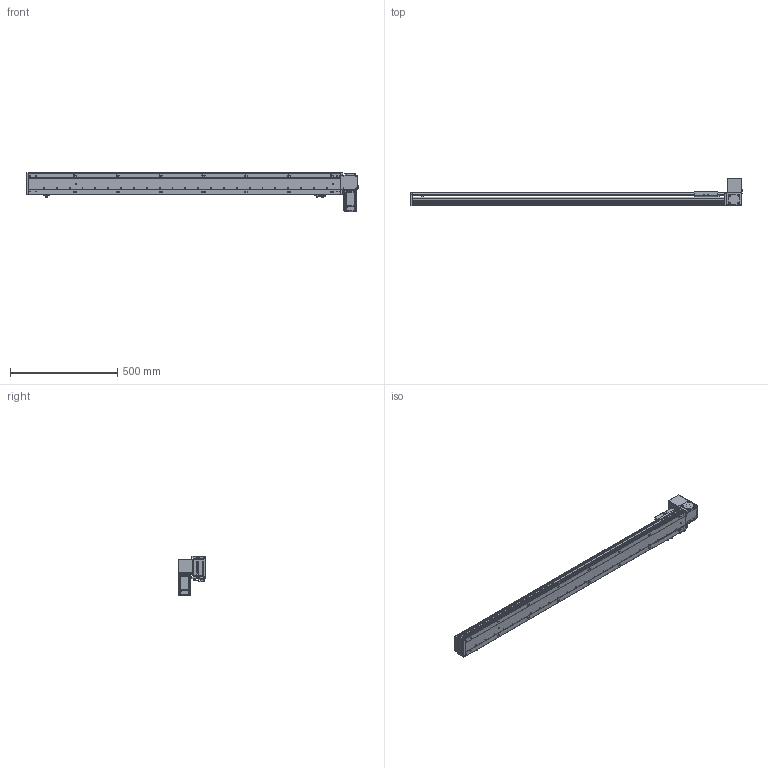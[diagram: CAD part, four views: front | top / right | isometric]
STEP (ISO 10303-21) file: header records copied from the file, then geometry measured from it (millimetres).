
FILE_DESCRIPTION (( 'STEP AP203' ), '1' );
FILE_NAME ('RY100-T-300-UL.SLDASM_1250.step', '2024-04-25T08:40:21', ( '盈信电脑' ), ( '东莞市道滘镇水果街19号' ), 'SwSTEP 2.0', 'SolidWorks 2016', '' );
FILE_SCHEMA (( 'CONFIG_CONTROL_DESIGN' ));
Length unit declared in the file: millimetre
Products named in the file (15): RY100-T-300-RK倰第奻裔_1250; RY80-T肮祭謫奻殏俋欶; RY100-T翋肮祭謫裔啣; RY100-T-300-RK倰第菁釱_1250; 1; RY100-T肮祭謫臏賑輸; RY100綴裔啣; RY100-T翋肮祭謫裔啣2; RY100-T肮祭謫翋盓傅釱; RY100-T粣創揤踡裔; RY100俋离覜茼え; 滅袉蝶18-10; RY100-T左右折电机安装板; RY100-T-300-UL.SLDASM_1250; 覜茼ん672
Assembly tree (17 placements, depth 2):
  RY100-T-300-UL.SLDASM_1250
    RY100-T-300-RK倰第菁釱_1250
    RY100-T-300-RK倰第奻裔_1250
    RY100-T肮祭謫臏賑輸
    RY100綴裔啣
    覜茼ん672  x3
    RY100俋离覜茼え
    RY100-T肮祭謫翋盓傅釱
    滅袉蝶18-10  x2
    RY100-T翋肮祭謫裔啣2
    RY100-T翋肮祭謫裔啣
    1
    RY100-T左右折电机安装板
    RY80-T肮祭謫奻殏俋欶
    RY100-T粣創揤踡裔
Bounding box: 1550 x 130.5 x 182.5 mm (x, y, z)
Volume: 3027799.1 mm3; surface area: 1257957.2 mm2
Topology: 17 solids, 17 shells, 2209 faces, 6139 edges, 3987 vertices
Faces by surface type: plane 1203, cylinder 797, cone 131, bspline 78
Entity records: 71075 total; most frequent: CARTESIAN_POINT 17059, ORIENTED_EDGE 11110, DIRECTION 10597, EDGE_CURVE 5555, VERTEX_POINT 3655, VECTOR 3597, LINE 3597, AXIS2_PLACEMENT_3D 3500
